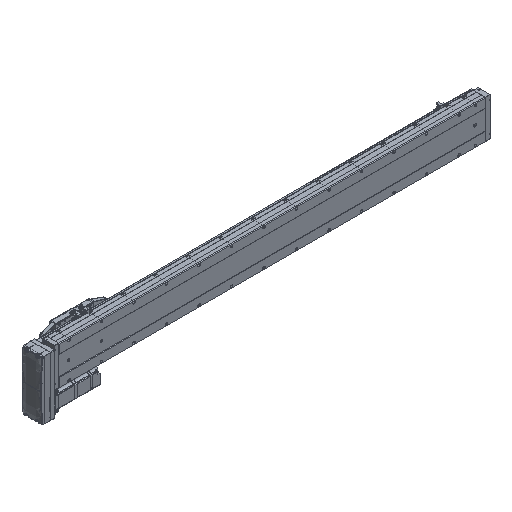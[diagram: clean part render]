
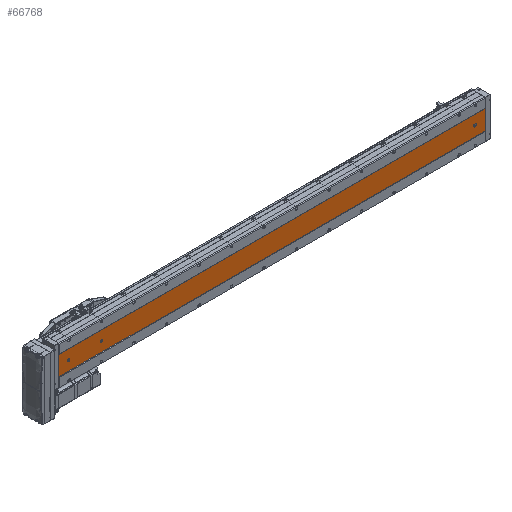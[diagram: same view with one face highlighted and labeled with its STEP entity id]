
A CAD part, isometric view. The second image highlights one B-rep face of the part: STEP entity #66768.
In plain terms, the highlighted planar face has unit normal (0, -1, 0).
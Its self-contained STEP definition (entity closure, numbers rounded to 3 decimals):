
#1255 = VERTEX_POINT ( 'NONE', #19134 ) ;
#2085 = PLANE ( 'NONE',  #63784 ) ;
#2616 = EDGE_CURVE ( 'NONE', #39917, #31964, #35118, .T. ) ;
#2941 = DIRECTION ( 'NONE',  ( 0., 0., 1. ) ) ;
#3025 = VERTEX_POINT ( 'NONE', #18586 ) ;
#3440 = VERTEX_POINT ( 'NONE', #9230 ) ;
#3958 = ORIENTED_EDGE ( 'NONE', *, *, #84713, .F. ) ;
#3972 = AXIS2_PLACEMENT_3D ( 'NONE', #44130, #78831, #7843 ) ;
#4685 = ORIENTED_EDGE ( 'NONE', *, *, #18055, .T. ) ;
#7523 = FACE_BOUND ( 'NONE', #30240, .T. ) ;
#7843 = DIRECTION ( 'NONE',  ( 0., 0., 1. ) ) ;
#8204 = ORIENTED_EDGE ( 'NONE', *, *, #11589, .T. ) ;
#8552 = FACE_BOUND ( 'NONE', #51348, .T. ) ;
#8646 = ORIENTED_EDGE ( 'NONE', *, *, #2616, .T. ) ;
#9230 = CARTESIAN_POINT ( 'NONE',  ( -43.392, -52.848, 32. ) ) ;
#9296 = ORIENTED_EDGE ( 'NONE', *, *, #75276, .F. ) ;
#10907 = DIRECTION ( 'NONE',  ( 0., 0., 1. ) ) ;
#11589 = EDGE_CURVE ( 'NONE', #41903, #35941, #54918, .T. ) ;
#12260 = CIRCLE ( 'NONE', #63801, 3.5 ) ;
#13175 = CIRCLE ( 'NONE', #71324, 3.5 ) ;
#13255 = LINE ( 'NONE', #16827, #66624 ) ;
#15062 = DIRECTION ( 'NONE',  ( 0., 0., 1. ) ) ;
#16051 = DIRECTION ( 'NONE',  ( 0., 1., 0. ) ) ;
#16558 = CIRCLE ( 'NONE', #40495, 3.5 ) ;
#16827 = CARTESIAN_POINT ( 'NONE',  ( -36.392, -52.848, 1311. ) ) ;
#17329 = FACE_OUTER_BOUND ( 'NONE', #64960, .T. ) ;
#17392 = LINE ( 'NONE', #30562, #53310 ) ;
#17917 = AXIS2_PLACEMENT_3D ( 'NONE', #56718, #49123, #15062 ) ;
#18046 = CARTESIAN_POINT ( 'NONE',  ( -43.392, -52.848, 30. ) ) ;
#18055 = EDGE_CURVE ( 'NONE', #70037, #1255, #13255, .T. ) ;
#18586 = CARTESIAN_POINT ( 'NONE',  ( -9.892, -52.848, 0. ) ) ;
#19134 = CARTESIAN_POINT ( 'NONE',  ( -36.392, -52.848, 30. ) ) ;
#19774 = CARTESIAN_POINT ( 'NONE',  ( -39.892, -52.848, 1177.5 ) ) ;
#19944 = ORIENTED_EDGE ( 'NONE', *, *, #59025, .T. ) ;
#21019 = VERTEX_POINT ( 'NONE', #86810 ) ;
#21083 = CARTESIAN_POINT ( 'NONE',  ( -39.892, -52.848, 1281. ) ) ;
#21173 = DIRECTION ( 'NONE',  ( 1., 0., 0. ) ) ;
#21640 = LINE ( 'NONE', #48550, #47789 ) ;
#22055 = CARTESIAN_POINT ( 'NONE',  ( -39.892, -52.848, 1277.5 ) ) ;
#22565 = VERTEX_POINT ( 'NONE', #78950 ) ;
#23217 = DIRECTION ( 'NONE',  ( 0., 0., 1. ) ) ;
#24049 = ORIENTED_EDGE ( 'NONE', *, *, #75613, .T. ) ;
#24253 = VECTOR ( 'NONE', #21173, 1000. ) ;
#24430 = CARTESIAN_POINT ( 'NONE',  ( -39.892, -52.848, 32. ) ) ;
#25552 = DIRECTION ( 'NONE',  ( 1., 0., 0. ) ) ;
#26189 = VECTOR ( 'NONE', #25552, 1000. ) ;
#26771 = EDGE_CURVE ( 'NONE', #3440, #70037, #55637, .T. ) ;
#30240 = EDGE_LOOP ( 'NONE', ( #8204, #19944 ) ) ;
#30562 = CARTESIAN_POINT ( 'NONE',  ( -69.892, -52.848, 1311. ) ) ;
#31662 = DIRECTION ( 'NONE',  ( 0., 1., 0. ) ) ;
#31677 = CARTESIAN_POINT ( 'NONE',  ( -69.892, -52.848, 0. ) ) ;
#31964 = VERTEX_POINT ( 'NONE', #49822 ) ;
#35118 = CIRCLE ( 'NONE', #66451, 3.5 ) ;
#35813 = CARTESIAN_POINT ( 'NONE',  ( -39.892, -52.848, 1284.5 ) ) ;
#35941 = VERTEX_POINT ( 'NONE', #35813 ) ;
#37100 = DIRECTION ( 'NONE',  ( 0., 0., 1. ) ) ;
#37265 = DIRECTION ( 'NONE',  ( 0., 1., 0. ) ) ;
#37671 = CARTESIAN_POINT ( 'NONE',  ( -39.892, -52.848, 1181. ) ) ;
#37779 = VERTEX_POINT ( 'NONE', #18046 ) ;
#38701 = ORIENTED_EDGE ( 'NONE', *, *, #55548, .T. ) ;
#39917 = VERTEX_POINT ( 'NONE', #19774 ) ;
#40495 = AXIS2_PLACEMENT_3D ( 'NONE', #73852, #68015, #60097 ) ;
#41903 = VERTEX_POINT ( 'NONE', #22055 ) ;
#42452 = DIRECTION ( 'NONE',  ( 0., 1., 0. ) ) ;
#42899 = EDGE_CURVE ( 'NONE', #69269, #3025, #88362, .T. ) ;
#44130 = CARTESIAN_POINT ( 'NONE',  ( -39.892, -52.848, 1281. ) ) ;
#47789 = VECTOR ( 'NONE', #62820, 1000. ) ;
#48182 = LINE ( 'NONE', #55584, #24253 ) ;
#48550 = CARTESIAN_POINT ( 'NONE',  ( -9.892, -52.848, 1311. ) ) ;
#49123 = DIRECTION ( 'NONE',  ( 0., 1., 0. ) ) ;
#49273 = ORIENTED_EDGE ( 'NONE', *, *, #26771, .T. ) ;
#49503 = ORIENTED_EDGE ( 'NONE', *, *, #66190, .T. ) ;
#49563 = AXIS2_PLACEMENT_3D ( 'NONE', #24430, #37265, #23217 ) ;
#49822 = CARTESIAN_POINT ( 'NONE',  ( -39.892, -52.848, 1184.5 ) ) ;
#50833 = CARTESIAN_POINT ( 'NONE',  ( -69.892, -52.848, 1311. ) ) ;
#51348 = EDGE_LOOP ( 'NONE', ( #4685, #24049, #89946, #38701, #49273 ) ) ;
#51467 = CIRCLE ( 'NONE', #17917, 3.5 ) ;
#51606 = DIRECTION ( 'NONE',  ( 0., 0., 1. ) ) ;
#52496 = CARTESIAN_POINT ( 'NONE',  ( -39.892, -52.848, 30. ) ) ;
#53310 = VECTOR ( 'NONE', #72623, 1000. ) ;
#54918 = CIRCLE ( 'NONE', #3972, 3.5 ) ;
#55548 = EDGE_CURVE ( 'NONE', #37779, #3440, #81439, .T. ) ;
#55584 = CARTESIAN_POINT ( 'NONE',  ( -69.892, -52.848, 1311. ) ) ;
#55637 = CIRCLE ( 'NONE', #49563, 3.5 ) ;
#56697 = DIRECTION ( 'NONE',  ( 0., 0., 1. ) ) ;
#56718 = CARTESIAN_POINT ( 'NONE',  ( -39.892, -52.848, 1181. ) ) ;
#58231 = DIRECTION ( 'NONE',  ( 0., 0., -1. ) ) ;
#58264 = ORIENTED_EDGE ( 'NONE', *, *, #42899, .T. ) ;
#59025 = EDGE_CURVE ( 'NONE', #35941, #41903, #13175, .T. ) ;
#59182 = DIRECTION ( 'NONE',  ( 0., 1., 0. ) ) ;
#60097 = DIRECTION ( 'NONE',  ( 0., 0., 1. ) ) ;
#62820 = DIRECTION ( 'NONE',  ( 0., 0., -1. ) ) ;
#63784 = AXIS2_PLACEMENT_3D ( 'NONE', #50833, #31662, #10907 ) ;
#63801 = AXIS2_PLACEMENT_3D ( 'NONE', #52496, #59182, #51606 ) ;
#64722 = VERTEX_POINT ( 'NONE', #85187 ) ;
#64960 = EDGE_LOOP ( 'NONE', ( #58264, #3958, #9296, #49503 ) ) ;
#66190 = EDGE_CURVE ( 'NONE', #64722, #69269, #17392, .T. ) ;
#66451 = AXIS2_PLACEMENT_3D ( 'NONE', #37671, #16051, #37100 ) ;
#66624 = VECTOR ( 'NONE', #58231, 1000. ) ;
#66768 = ADVANCED_FACE ( 'NONE', ( #8552, #77311, #7523, #17329 ), #2085, .F. ) ;
#68015 = DIRECTION ( 'NONE',  ( 0., 1., 0. ) ) ;
#68810 = CARTESIAN_POINT ( 'NONE',  ( -36.392, -52.848, 32. ) ) ;
#69269 = VERTEX_POINT ( 'NONE', #85124 ) ;
#70037 = VERTEX_POINT ( 'NONE', #68810 ) ;
#71009 = EDGE_LOOP ( 'NONE', ( #8646, #77988 ) ) ;
#71324 = AXIS2_PLACEMENT_3D ( 'NONE', #21083, #42452, #56697 ) ;
#72623 = DIRECTION ( 'NONE',  ( 0., 0., -1. ) ) ;
#73852 = CARTESIAN_POINT ( 'NONE',  ( -39.892, -52.848, 30. ) ) ;
#75276 = EDGE_CURVE ( 'NONE', #64722, #21019, #48182, .T. ) ;
#75511 = EDGE_CURVE ( 'NONE', #22565, #37779, #12260, .T. ) ;
#75613 = EDGE_CURVE ( 'NONE', #1255, #22565, #16558, .T. ) ;
#77311 = FACE_BOUND ( 'NONE', #71009, .T. ) ;
#77988 = ORIENTED_EDGE ( 'NONE', *, *, #87882, .T. ) ;
#78831 = DIRECTION ( 'NONE',  ( 0., 1., 0. ) ) ;
#78876 = CARTESIAN_POINT ( 'NONE',  ( -43.392, -52.848, 1311. ) ) ;
#78950 = CARTESIAN_POINT ( 'NONE',  ( -39.892, -52.848, 26.5 ) ) ;
#81439 = LINE ( 'NONE', #78876, #82486 ) ;
#82486 = VECTOR ( 'NONE', #2941, 1000. ) ;
#84713 = EDGE_CURVE ( 'NONE', #21019, #3025, #21640, .T. ) ;
#85124 = CARTESIAN_POINT ( 'NONE',  ( -69.892, -52.848, 0. ) ) ;
#85187 = CARTESIAN_POINT ( 'NONE',  ( -69.892, -52.848, 1311. ) ) ;
#86810 = CARTESIAN_POINT ( 'NONE',  ( -9.892, -52.848, 1311. ) ) ;
#87882 = EDGE_CURVE ( 'NONE', #31964, #39917, #51467, .T. ) ;
#88362 = LINE ( 'NONE', #31677, #26189 ) ;
#89946 = ORIENTED_EDGE ( 'NONE', *, *, #75511, .T. ) ;
